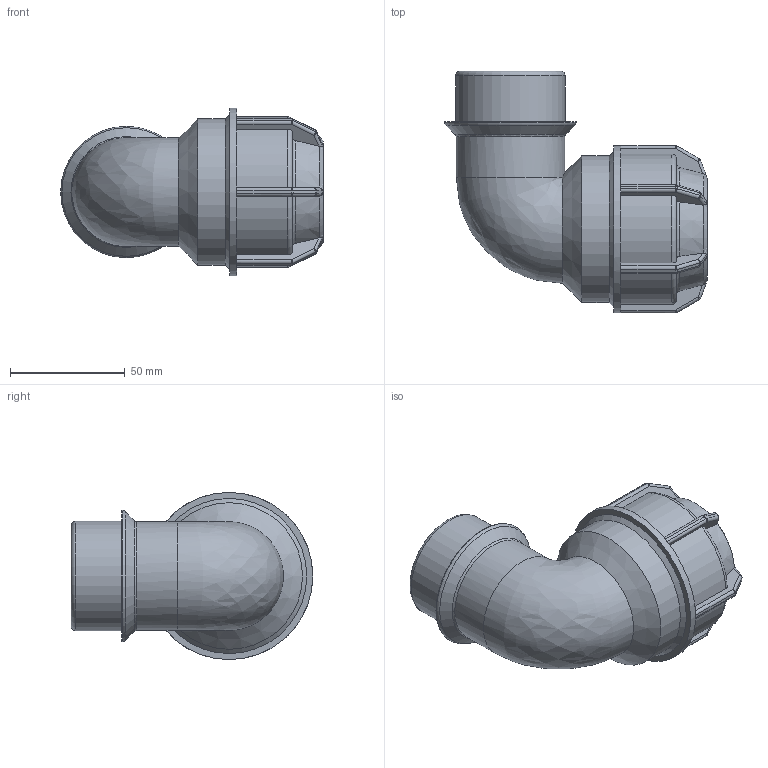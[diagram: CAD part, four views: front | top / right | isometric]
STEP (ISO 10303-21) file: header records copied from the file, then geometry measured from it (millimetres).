
FILE_DESCRIPTION(/* description */ ('PLASSON L.14 90° ELBOW MALE ADAPTOR (SILVER) 40-1.1/2"'),/* implementation_level */ '2;1');
FILE_NAME(/* name */ 'C:\Dropbox\KIMPROJECTS-Inventor\99-16-3568-Processing\Silver+MF ISRAEL\148500\148500040015.ipt.stp',/* time_stamp */ '2018-04-09T13:05:52+03:00',/* author */ ('KIM'),/* organization */ (''),/* preprocessor_version */ 'ST-DEVELOPER v15.6',/* originating_system */ 'Autodesk Inventor 2015',/* authorisation */ '');
FILE_SCHEMA (('AUTOMOTIVE_DESIGN { 1 0 10303 214 3 1 1 }'));
Length unit declared in the file: millimetre
Products named in the file (1): 148500040015
Bounding box: 114.68 x 105.5 x 73 mm (x, y, z)
Volume: 179860.8 mm3; surface area: 49184.6 mm2
Topology: 1 solids, 1 shells, 214 faces, 502 edges, 288 vertices
Faces by surface type: plane 98, cylinder 63, sphere 24, torus 18, cone 10, bspline 1
Full cylindrical faces by diameter (mm): 35.852 x2, 40 x2, 47.325 x1, 47.803 x1, 57.364 x1, 64 x1, 73 x1
Entity records: 6140 total; most frequent: CARTESIAN_POINT 1563, DIRECTION 964, ORIENTED_EDGE 926, EDGE_CURVE 463, AXIS2_PLACEMENT_3D 392, VERTEX_POINT 276, EDGE_LOOP 237, FACE_OUTER_BOUND 212
